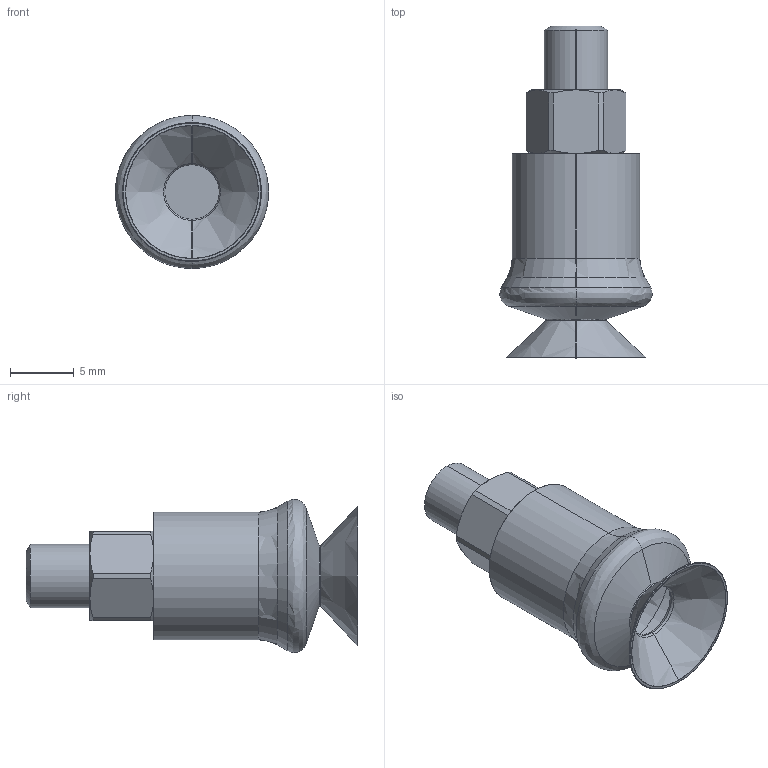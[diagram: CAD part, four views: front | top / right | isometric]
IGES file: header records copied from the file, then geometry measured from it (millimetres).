
Start section: SolidWorks IGES file using analytic representation for surfaces
Global section: file name: E:\eins\20070625石神\シュマルツ\SFSGAシリーズ\183874.IGS; native system: SolidWorks 2006 by SolidWorks Corporation; preprocessor: SolidWorks 2006 by SolidWorks Corporation; author: CAD54; date: 070625.172741; units: millimetre
Bounding box: 12 x 26 x 12 mm (x, y, z)
Surface area: 1641.7 mm2 (no closed solid volume)
Topology: 0 solids, 0 shells, 70 faces, 644 edges, 644 vertices
Faces by surface type: bspline 38, revolution 32
